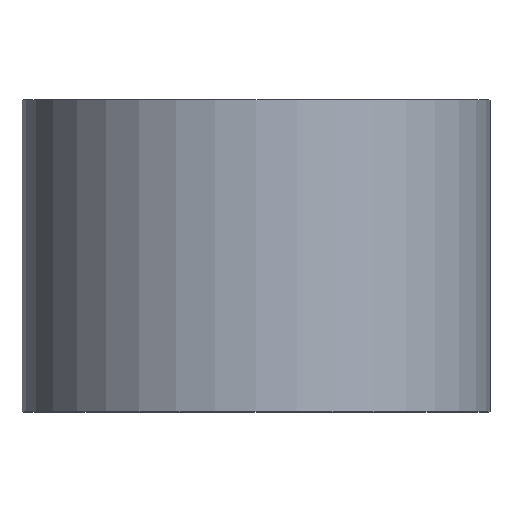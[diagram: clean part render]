
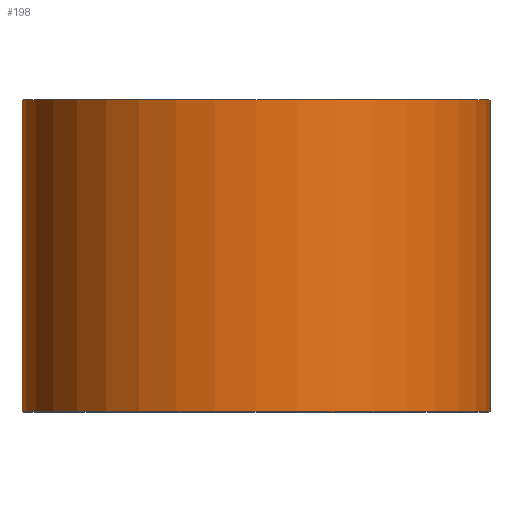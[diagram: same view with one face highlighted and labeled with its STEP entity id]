
A CAD part, top view. The second image highlights one B-rep face of the part: STEP entity #198.
In plain terms, the highlighted cylindrical face has radius 9 mm (diameter 18 mm), a partial arc.
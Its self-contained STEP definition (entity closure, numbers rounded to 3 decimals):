
#2 = AXIS2_PLACEMENT_3D ( 'NONE', #95, #160, #282 ) ;
#4 = CARTESIAN_POINT ( 'NONE',  ( -9., 0., 0. ) ) ;
#39 = CYLINDRICAL_SURFACE ( 'NONE', #84, 9. ) ;
#67 = VERTEX_POINT ( 'NONE', #86 ) ;
#73 = DIRECTION ( 'NONE',  ( -1., 0., 0. ) ) ;
#74 = LINE ( 'NONE', #4, #250 ) ;
#84 = AXIS2_PLACEMENT_3D ( 'NONE', #183, #256, #210 ) ;
#86 = CARTESIAN_POINT ( 'NONE',  ( 9., 0., 0. ) ) ;
#91 = DIRECTION ( 'NONE',  ( 0., 1., 0. ) ) ;
#92 = AXIS2_PLACEMENT_3D ( 'NONE', #119, #277, #73 ) ;
#95 = CARTESIAN_POINT ( 'NONE',  ( 0., 12., 0. ) ) ;
#116 = ORIENTED_EDGE ( 'NONE', *, *, #172, .T. ) ;
#119 = CARTESIAN_POINT ( 'NONE',  ( 0., 0., 0. ) ) ;
#120 = LINE ( 'NONE', #149, #200 ) ;
#132 = CARTESIAN_POINT ( 'NONE',  ( -9., 0., 0. ) ) ;
#133 = EDGE_LOOP ( 'NONE', ( #139, #116, #158, #218 ) ) ;
#139 = ORIENTED_EDGE ( 'NONE', *, *, #194, .T. ) ;
#149 = CARTESIAN_POINT ( 'NONE',  ( 9., 0., 0. ) ) ;
#158 = ORIENTED_EDGE ( 'NONE', *, *, #199, .F. ) ;
#160 = DIRECTION ( 'NONE',  ( 0., 1., 0. ) ) ;
#162 = CARTESIAN_POINT ( 'NONE',  ( 9., 12., 0. ) ) ;
#169 = FACE_OUTER_BOUND ( 'NONE', #133, .T. ) ;
#172 = EDGE_CURVE ( 'NONE', #67, #260, #120, .T. ) ;
#183 = CARTESIAN_POINT ( 'NONE',  ( 0., 0., 0. ) ) ;
#194 = EDGE_CURVE ( 'NONE', #196, #67, #243, .T. ) ;
#196 = VERTEX_POINT ( 'NONE', #132 ) ;
#198 = ADVANCED_FACE ( 'NONE', ( #169 ), #39, .T. ) ;
#199 = EDGE_CURVE ( 'NONE', #301, #260, #294, .T. ) ;
#200 = VECTOR ( 'NONE', #91, 1000. ) ;
#206 = EDGE_CURVE ( 'NONE', #196, #301, #74, .T. ) ;
#210 = DIRECTION ( 'NONE',  ( -1., 0., 0. ) ) ;
#218 = ORIENTED_EDGE ( 'NONE', *, *, #206, .F. ) ;
#243 = CIRCLE ( 'NONE', #92, 9. ) ;
#250 = VECTOR ( 'NONE', #255, 1000. ) ;
#255 = DIRECTION ( 'NONE',  ( 0., 1., 0. ) ) ;
#256 = DIRECTION ( 'NONE',  ( 0., 1., 0. ) ) ;
#260 = VERTEX_POINT ( 'NONE', #162 ) ;
#262 = CARTESIAN_POINT ( 'NONE',  ( -9., 12., 0. ) ) ;
#277 = DIRECTION ( 'NONE',  ( 0., 1., 0. ) ) ;
#282 = DIRECTION ( 'NONE',  ( -1., 0., 0. ) ) ;
#294 = CIRCLE ( 'NONE', #2, 9. ) ;
#301 = VERTEX_POINT ( 'NONE', #262 ) ;
